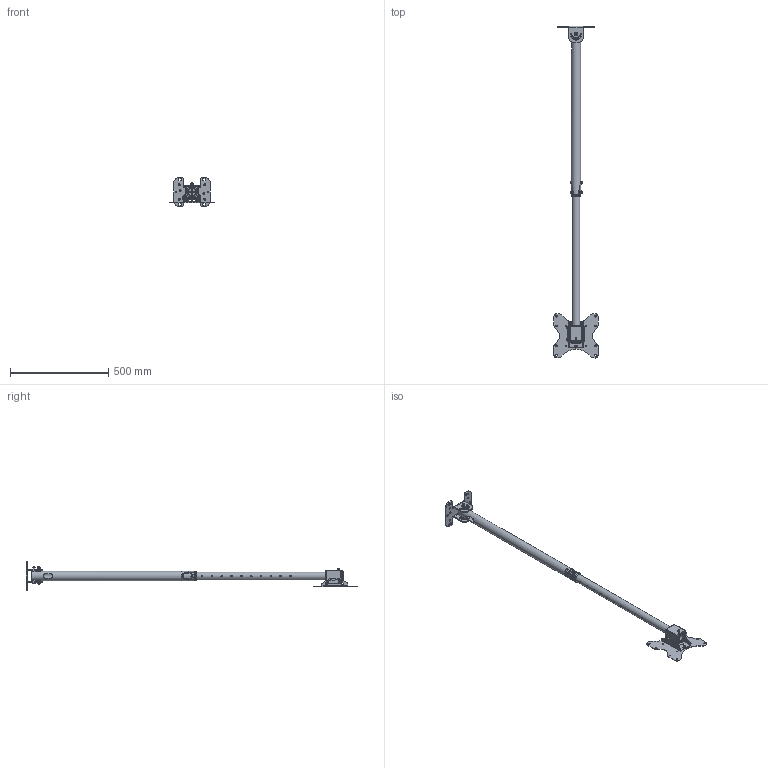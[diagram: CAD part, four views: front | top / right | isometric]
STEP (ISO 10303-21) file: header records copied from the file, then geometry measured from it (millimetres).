
FILE_DESCRIPTION(/* description */ (''),/* implementation_level */ '2;1');
FILE_NAME(/* name */ 'CM10-S4261-XXX_Simplify-A.stp',/* time_stamp */ '2025-11-05T12:50:18-05:00',/* author */ ('sbowman'),/* organization */ (''),/* preprocessor_version */ 'ST-DEVELOPER v20.1',/* originating_system */ 'Autodesk Inventor 2026',/* authorisation */ '');
FILE_SCHEMA (('AUTOMOTIVE_DESIGN { 1 0 10303 214 3 1 1 }'));
Products named in the file (1): CM10-S4261-XXX_Simplify_1
Bounding box: 226 x 1692.2 x 150 mm (x, y, z)
Volume: 683450.4 mm3; surface area: 690674.1 mm2
Topology: 8 solids, 20 shells, 1469 faces, 4106 edges, 2637 vertices
Faces by surface type: cylinder 592, plane 485, bspline 178, cone 152, torus 60, sphere 2
Full cylindrical faces by diameter (mm): 4.917 x18, 5 x3, 6 x24, 6.05 x3, 6.1 x8, 6.2 x4, 6.5 x4, 6.647 x2, 7 x1, 8 x110, 8.3 x34, 8.4 x4, 8.5 x18, 9 x9, 10 x2, 16 x8, 37.6 x1, 40 x1, 40.5 x4, 43 x1, 44 x2, 45 x1, 48 x1, 48.2 x1, 55 x1, 56 x2
Entity records: 114573 total; most frequent: CARTESIAN_POINT 76851, ORIENTED_EDGE 8206, DIRECTION 6819, EDGE_CURVE 4115, AXIS2_PLACEMENT_3D 2675, VERTEX_POINT 2648, EDGE_LOOP 1675, LINE 1469
